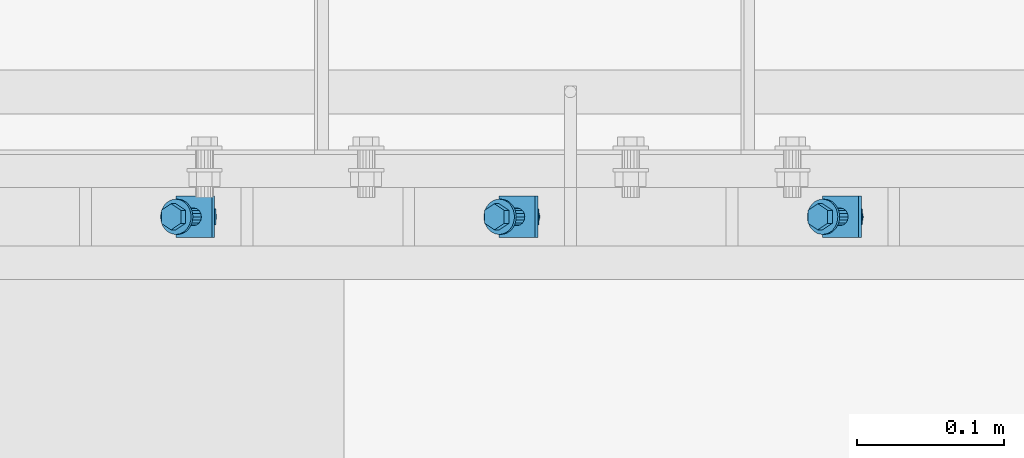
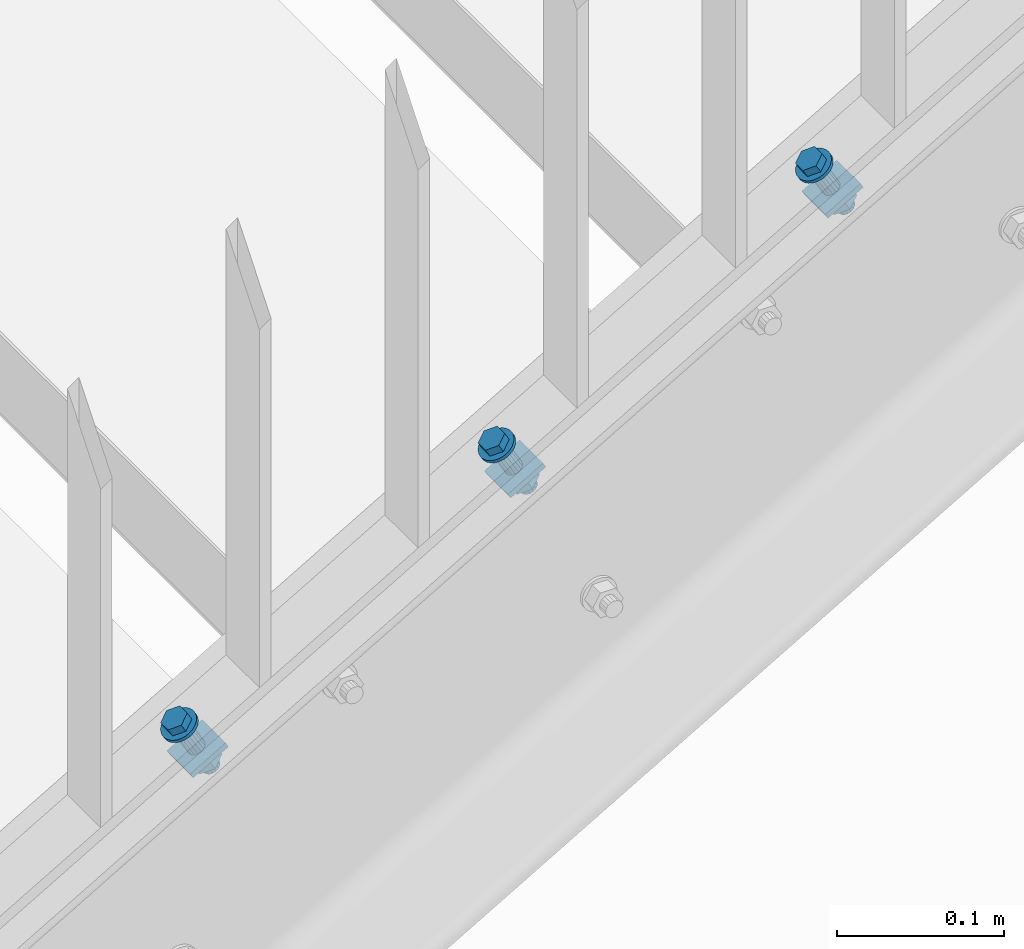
# One storey, part 49 of 145: 3 mechanical fasteners.
"""IFC2X3 building model written with IfcOpenShell, lengths in millimetres."""

from ifc_helpers import new_model, entity, si_unit, converted_unit, origin_with_axes, place, context, project, spatial, faceted_brep, element, save


model = new_model("IFC2X3")

# Units and contexts
model_context = context("Model", 3, precision=1e-09, world=origin_with_axes())
ifc_project = project(units=[si_unit("LENGTHUNIT", "METRE", prefix="MILLI"), si_unit("AREAUNIT", "SQUARE_METRE"), si_unit("VOLUMEUNIT", "CUBIC_METRE"), converted_unit("PLANEANGLEUNIT", "DEGREE", entity("IfcPlaneAngleMeasure", 0.01745329), si_unit("PLANEANGLEUNIT", "RADIAN"), dimensions=[0, 0, 0, 0, 0, 0, 0])], contexts=[model_context])

# Site, building, storey
site_placement = place(None, origin_with_axes())
site = spatial("IfcSite", under=ifc_project, at=site_placement, Name="BZ1 Grund- und Mittelschule 85716 Unterschlei?heim", CompositionType="ELEMENT")
building_placement = place(site_placement, origin_with_axes())
building = spatial("IfcBuilding", under=site, at=building_placement, Name="Struktur 1", CompositionType="ELEMENT")
storey_placement = place(building_placement, origin_with_axes())
storey = spatial("IfcBuildingStorey", under=building, at=storey_placement, Name="Default Storey", CompositionType="ELEMENT", Elevation=0.0)

# Mechanical fasteners
mechanical_fastener_1_placement = place(None, origin_with_axes())
element("IfcMechanicalFastener", 1, at=mechanical_fastener_1_placement, inside=storey, ObjectType="-", NominalDiameter=12.0, NominalLength=45.0, context=model_context, shape_type="Brep", body=[
    faceted_brep([(17139.692769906, -3162.502, 17.083019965), (17140.949497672, -3162.502, 14.921854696), (17141.148823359, -3164.843083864, 15.03776352), (17139.892095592, -3164.843083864, 17.198928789), (17141.739140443, -3167.094201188, 15.38103568), (17140.482412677, -3167.094201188, 17.542200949), (17142.697763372, -3169.168842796, 15.938479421), (17141.441035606, -3169.168842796, 18.09964469), (17143.987852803, -3170.987281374, 16.688672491), (17142.731125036, -3170.987281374, 18.84983776), (17145.559831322, -3172.479635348, 17.602785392), (17144.303103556, -3172.479635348, 19.763950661), (17147.353288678, -3173.58855439, 18.645689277), (17146.096560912, -3173.58855439, 20.806854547), (17149.299303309, -3174.271423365, 19.777305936), (17148.042575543, -3174.271423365, 21.938471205), (17151.323090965, -3174.502, 20.954147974), (17150.066363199, -3174.502, 23.115313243), (17153.346878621, -3174.271423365, 22.130990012), (17152.090150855, -3174.271423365, 24.292155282), (17155.292893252, -3173.58855439, 23.262606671), (17154.036165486, -3173.58855439, 25.42377194), (17157.086350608, -3172.479635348, 24.305510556), (17155.829622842, -3172.479635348, 26.466675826), (17158.658329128, -3170.987281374, 25.219623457), (17157.401601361, -3170.987281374, 27.380788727), (17159.948418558, -3169.168842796, 25.969816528), (17158.691690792, -3169.168842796, 28.130981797), (17160.907041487, -3167.094201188, 26.527260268), (17159.650313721, -3167.094201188, 28.688425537), (17161.497358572, -3164.843083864, 26.870532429), (17160.240630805, -3164.843083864, 29.031697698), (17161.696684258, -3162.502, 26.986441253), (17160.439956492, -3162.502, 29.147606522), (17161.497358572, -3160.160916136, 26.870532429), (17160.240630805, -3160.160916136, 29.031697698), (17160.907041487, -3157.909798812, 26.527260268), (17159.650313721, -3157.909798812, 28.688425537), (17159.948418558, -3155.835157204, 25.969816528), (17158.691690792, -3155.835157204, 28.130981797), (17158.658329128, -3154.016718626, 25.219623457), (17157.401601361, -3154.016718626, 27.380788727), (17157.086350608, -3152.524364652, 24.305510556), (17155.829622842, -3152.524364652, 26.466675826), (17155.292893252, -3151.41544561, 23.262606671), (17154.036165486, -3151.41544561, 25.42377194), (17153.346878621, -3150.732576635, 22.130990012), (17152.090150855, -3150.732576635, 24.292155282), (17151.323090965, -3150.502, 20.954147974), (17150.066363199, -3150.502, 23.115313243), (17149.299303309, -3150.732576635, 19.777305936), (17148.042575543, -3150.732576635, 21.938471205), (17147.353288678, -3151.41544561, 18.645689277), (17146.096560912, -3151.41544561, 20.806854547), (17145.559831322, -3152.524364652, 17.602785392), (17144.303103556, -3152.524364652, 19.763950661), (17143.987852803, -3154.016718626, 16.688672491), (17142.731125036, -3154.016718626, 18.84983776), (17142.697763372, -3155.835157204, 15.938479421), (17141.441035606, -3155.835157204, 18.09964469), (17141.739140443, -3157.909798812, 15.38103568), (17140.482412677, -3157.909798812, 17.542200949), (17141.148823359, -3160.160916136, 15.03776352), (17139.892095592, -3160.160916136, 17.198928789)], [[[0, 1, 2, 3]], [[3, 2, 4, 5]], [[5, 4, 6, 7]], [[7, 6, 8, 9]], [[9, 8, 10, 11]], [[11, 10, 12, 13]], [[13, 12, 14, 15]], [[15, 14, 16, 17]], [[17, 16, 18, 19]], [[19, 18, 20, 21]], [[21, 20, 22, 23]], [[23, 22, 24, 25]], [[25, 24, 26, 27]], [[27, 26, 28, 29]], [[29, 28, 30, 31]], [[31, 30, 32, 33]], [[33, 32, 34, 35]], [[35, 34, 36, 37]], [[37, 36, 38, 39]], [[39, 38, 40, 41]], [[41, 40, 42, 43]], [[43, 42, 44, 45]], [[45, 44, 46, 47]], [[47, 46, 48, 49]], [[49, 48, 50, 51]], [[51, 50, 52, 53]], [[53, 52, 54, 55]], [[55, 54, 56, 57]], [[57, 56, 58, 59]], [[59, 58, 60, 61]], [[61, 60, 62, 63]], [[63, 62, 1, 0]], [[0, 3, 5, 7, 9, 11, 13, 15, 17, 19, 21, 23, 25, 27, 29, 31, 33, 35, 37, 39, 41, 43, 45, 47, 49, 51, 53, 55, 57, 59, 61, 63]], [[1, 62, 60, 58, 56, 54, 52, 50, 48, 46, 44, 42, 40, 38, 36, 34, 32, 30, 28, 26, 24, 22, 20, 18, 16, 14, 12, 10, 8, 6, 4, 2]]]),
    faceted_brep([(17156.718114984, -3166.9445, 26.983338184), (17153.500891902, -3166.9445, 32.515921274), (17146.849140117, -3171.387, 28.647896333), (17150.066363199, -3171.387, 23.115313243), (17140.197388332, -3166.9445, 24.779871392), (17143.414611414, -3166.9445, 19.247288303), (17140.197388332, -3158.0595, 24.779871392), (17143.414611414, -3158.0595, 19.247288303), (17146.849140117, -3153.617, 28.647896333), (17150.066363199, -3153.617, 23.115313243), (17153.500891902, -3158.0595, 32.515921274), (17156.718114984, -3158.0595, 26.983338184)], [[[0, 1, 2, 3]], [[3, 2, 4, 5]], [[5, 4, 6, 7]], [[7, 6, 8, 9]], [[9, 8, 10, 11]], [[11, 10, 1, 0]], [[4, 2, 1, 10, 8, 6]], [[0, 3, 5, 7, 9, 11]]]),
    faceted_brep([(17146.136294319, -3162.502, 17.938001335), (17157.117086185, -3162.502, -0.945408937), (17157.511907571, -3164.798100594, -0.715818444), (17146.531115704, -3164.798100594, 18.167591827), (17158.63626375, -3166.744640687, -0.062000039), (17147.655471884, -3166.744640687, 18.821410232), (17160.318981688, -3168.045277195, 0.916508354), (17149.338189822, -3168.045277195, 19.799918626), (17162.303882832, -3168.502, 2.070737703), (17151.323090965, -3168.502, 20.954147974), (17164.288783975, -3168.045277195, 3.224967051), (17153.307992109, -3168.045277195, 22.108377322), (17165.971501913, -3166.744640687, 4.203475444), (17154.990710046, -3166.744640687, 23.086885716), (17167.095858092, -3164.798100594, 4.85729385), (17156.115066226, -3164.798100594, 23.740704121), (17167.490679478, -3162.502, 5.086884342), (17156.509887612, -3162.502, 23.970294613), (17167.095858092, -3160.205899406, 4.85729385), (17156.115066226, -3160.205899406, 23.740704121), (17165.971501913, -3158.259359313, 4.203475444), (17154.990710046, -3158.259359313, 23.086885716), (17164.288783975, -3156.958722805, 3.224967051), (17153.307992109, -3156.958722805, 22.108377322), (17162.303882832, -3156.502, 2.070737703), (17151.323090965, -3156.502, 20.954147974), (17160.318981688, -3156.958722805, 0.916508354), (17149.338189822, -3156.958722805, 19.799918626), (17158.63626375, -3158.259359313, -0.062000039), (17147.655471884, -3158.259359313, 18.821410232), (17157.511907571, -3160.205899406, -0.715818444), (17146.531115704, -3160.205899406, 18.167591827)], [[[0, 1, 2, 3]], [[3, 2, 4, 5]], [[5, 4, 6, 7]], [[7, 6, 8, 9]], [[9, 8, 10, 11]], [[11, 10, 12, 13]], [[13, 12, 14, 15]], [[15, 14, 16, 17]], [[17, 16, 18, 19]], [[19, 18, 20, 21]], [[21, 20, 22, 23]], [[23, 22, 24, 25]], [[25, 24, 26, 27]], [[27, 26, 28, 29]], [[29, 28, 30, 31]], [[31, 30, 1, 0]], [[0, 3, 5, 7, 9, 11, 13, 15, 17, 19, 21, 23, 25, 27, 29, 31]], [[1, 30, 28, 26, 24, 22, 20, 18, 16, 14, 12, 10, 8, 6, 4, 2]]]),
    faceted_brep([(17176.540044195, -3176.644135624, 5.721999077), (17174.529279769, -3176.644135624, 9.179863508), (17150.078485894, -3176.644135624, -5.038388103), (17152.08925032, -3176.644135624, -8.496252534), (17150.078485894, -3148.359864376, -5.038388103), (17152.08925032, -3148.359864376, -8.496252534), (17174.529279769, -3148.359864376, 9.179863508), (17176.540044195, -3148.359864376, 5.721999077)], [[[0, 1, 2, 3]], [[3, 2, 4, 5]], [[5, 4, 6, 7]], [[7, 6, 1, 0]], [[4, 2, 1, 6]], [[0, 3, 5, 7]]]),
    faceted_brep([(17177.239811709, -3167.777, -5.438916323), (17172.212900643, -3167.777, 3.205744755), (17164.314647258, -3173.052, -1.387126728), (17169.341558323, -3173.052, -10.031787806), (17156.416393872, -3167.777, -5.979998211), (17161.443304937, -3167.777, -14.624659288), (17156.416393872, -3157.227, -5.979998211), (17161.443304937, -3157.227, -14.624659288), (17164.314647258, -3151.952, -1.387126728), (17169.341558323, -3151.952, -10.031787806), (17172.212900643, -3157.227, 3.205744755), (17177.239811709, -3157.227, -5.438916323)], [[[0, 1, 2, 3]], [[3, 2, 4, 5]], [[5, 4, 6, 7]], [[7, 6, 8, 9]], [[9, 8, 10, 11]], [[11, 10, 1, 0]], [[4, 2, 1, 10, 8, 6]], [[0, 3, 5, 7, 9, 11]]]),
    faceted_brep([(17164.154761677, -3162.502, -13.047934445), (17167.500666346, -3162.502, -18.801808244), (17167.895487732, -3164.798100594, -18.572217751), (17164.549583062, -3164.798100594, -12.818343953), (17169.019843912, -3166.744640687, -17.918399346), (17165.673939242, -3166.744640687, -12.164525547), (17170.702561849, -3168.045277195, -16.939890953), (17167.356657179, -3168.045277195, -11.186017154), (17172.687462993, -3168.502, -15.785661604), (17169.341558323, -3168.502, -10.031787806), (17174.672364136, -3168.045277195, -14.631432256), (17171.326459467, -3168.045277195, -8.877558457), (17176.355082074, -3166.744640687, -13.652923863), (17173.009177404, -3166.744640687, -7.899050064), (17177.479438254, -3164.798100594, -12.999105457), (17174.133533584, -3164.798100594, -7.245231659), (17177.874259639, -3162.502, -12.769514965), (17174.528354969, -3162.502, -7.015641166), (17177.479438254, -3160.205899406, -12.999105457), (17174.133533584, -3160.205899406, -7.245231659), (17176.355082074, -3158.259359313, -13.652923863), (17173.009177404, -3158.259359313, -7.899050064), (17174.672364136, -3156.958722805, -14.631432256), (17171.326459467, -3156.958722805, -8.877558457), (17172.687462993, -3156.502, -15.785661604), (17169.341558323, -3156.502, -10.031787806), (17170.702561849, -3156.958722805, -16.939890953), (17167.356657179, -3156.958722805, -11.186017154), (17169.019843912, -3158.259359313, -17.918399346), (17165.673939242, -3158.259359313, -12.164525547), (17167.895487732, -3160.205899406, -18.572217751), (17164.549583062, -3160.205899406, -12.818343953)], [[[0, 1, 2, 3]], [[3, 2, 4, 5]], [[5, 4, 6, 7]], [[7, 6, 8, 9]], [[9, 8, 10, 11]], [[11, 10, 12, 13]], [[13, 12, 14, 15]], [[15, 14, 16, 17]], [[17, 16, 18, 19]], [[19, 18, 20, 21]], [[21, 20, 22, 23]], [[23, 22, 24, 25]], [[25, 24, 26, 27]], [[27, 26, 28, 29]], [[29, 28, 30, 31]], [[31, 30, 1, 0]], [[0, 3, 5, 7, 9, 11, 13, 15, 17, 19, 21, 23, 25, 27, 29, 31]], [[1, 30, 28, 26, 24, 22, 20, 18, 16, 14, 12, 10, 8, 6, 4, 2]]]),
])
mechanical_fastener_2_placement = place(None, origin_with_axes())
element("IfcMechanicalFastener", 2, at=mechanical_fastener_2_placement, inside=storey, ObjectType="-", NominalDiameter=12.0, NominalLength=45.0, context=model_context, shape_type="Brep", body=[
    faceted_brep([(17359.693272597, -3162.502, 145.014346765), (17360.950000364, -3162.502, 142.853181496), (17361.14932605, -3164.843083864, 142.96909032), (17359.892598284, -3164.843083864, 145.130255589), (17361.739643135, -3167.094201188, 143.31236248), (17360.482915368, -3167.094201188, 145.473527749), (17362.698266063, -3169.168842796, 143.869806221), (17361.441538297, -3169.168842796, 146.03097149), (17363.988355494, -3170.987281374, 144.619999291), (17362.731627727, -3170.987281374, 146.78116456), (17365.560334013, -3172.479635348, 145.534112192), (17364.303606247, -3172.479635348, 147.695277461), (17367.353791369, -3173.58855439, 146.577016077), (17366.097063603, -3173.58855439, 148.738181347), (17369.299806, -3174.271423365, 147.708632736), (17368.043078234, -3174.271423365, 149.869798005), (17371.323593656, -3174.502, 148.885474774), (17370.06686589, -3174.502, 151.046640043), (17373.347381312, -3174.271423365, 150.062316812), (17372.090653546, -3174.271423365, 152.223482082), (17375.293395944, -3173.58855439, 151.193933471), (17374.036668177, -3173.58855439, 153.35509874), (17377.086853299, -3172.479635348, 152.236837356), (17375.830125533, -3172.479635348, 154.398002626), (17378.658831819, -3170.987281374, 153.150950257), (17377.402104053, -3170.987281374, 155.312115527), (17379.94892125, -3169.168842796, 153.901143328), (17378.692193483, -3169.168842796, 156.062308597), (17380.907544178, -3167.094201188, 154.458587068), (17379.650816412, -3167.094201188, 156.619752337), (17381.497861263, -3164.843083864, 154.801859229), (17380.241133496, -3164.843083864, 156.963024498), (17381.697186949, -3162.502, 154.917768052), (17380.440459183, -3162.502, 157.078933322), (17381.497861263, -3160.160916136, 154.801859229), (17380.241133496, -3160.160916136, 156.963024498), (17380.907544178, -3157.909798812, 154.458587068), (17379.650816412, -3157.909798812, 156.619752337), (17379.94892125, -3155.835157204, 153.901143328), (17378.692193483, -3155.835157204, 156.062308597), (17378.658831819, -3154.016718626, 153.150950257), (17377.402104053, -3154.016718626, 155.312115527), (17377.086853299, -3152.524364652, 152.236837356), (17375.830125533, -3152.524364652, 154.398002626), (17375.293395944, -3151.41544561, 151.193933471), (17374.036668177, -3151.41544561, 153.35509874), (17373.347381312, -3150.732576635, 150.062316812), (17372.090653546, -3150.732576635, 152.223482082), (17371.323593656, -3150.502, 148.885474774), (17370.06686589, -3150.502, 151.046640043), (17369.299806, -3150.732576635, 147.708632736), (17368.043078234, -3150.732576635, 149.869798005), (17367.353791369, -3151.41544561, 146.577016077), (17366.097063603, -3151.41544561, 148.738181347), (17365.560334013, -3152.524364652, 145.534112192), (17364.303606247, -3152.524364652, 147.695277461), (17363.988355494, -3154.016718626, 144.619999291), (17362.731627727, -3154.016718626, 146.78116456), (17362.698266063, -3155.835157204, 143.869806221), (17361.441538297, -3155.835157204, 146.03097149), (17361.739643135, -3157.909798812, 143.31236248), (17360.482915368, -3157.909798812, 145.473527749), (17361.14932605, -3160.160916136, 142.96909032), (17359.892598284, -3160.160916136, 145.130255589)], [[[0, 1, 2, 3]], [[3, 2, 4, 5]], [[5, 4, 6, 7]], [[7, 6, 8, 9]], [[9, 8, 10, 11]], [[11, 10, 12, 13]], [[13, 12, 14, 15]], [[15, 14, 16, 17]], [[17, 16, 18, 19]], [[19, 18, 20, 21]], [[21, 20, 22, 23]], [[23, 22, 24, 25]], [[25, 24, 26, 27]], [[27, 26, 28, 29]], [[29, 28, 30, 31]], [[31, 30, 32, 33]], [[33, 32, 34, 35]], [[35, 34, 36, 37]], [[37, 36, 38, 39]], [[39, 38, 40, 41]], [[41, 40, 42, 43]], [[43, 42, 44, 45]], [[45, 44, 46, 47]], [[47, 46, 48, 49]], [[49, 48, 50, 51]], [[51, 50, 52, 53]], [[53, 52, 54, 55]], [[55, 54, 56, 57]], [[57, 56, 58, 59]], [[59, 58, 60, 61]], [[61, 60, 62, 63]], [[63, 62, 1, 0]], [[0, 3, 5, 7, 9, 11, 13, 15, 17, 19, 21, 23, 25, 27, 29, 31, 33, 35, 37, 39, 41, 43, 45, 47, 49, 51, 53, 55, 57, 59, 61, 63]], [[1, 62, 60, 58, 56, 54, 52, 50, 48, 46, 44, 42, 40, 38, 36, 34, 32, 30, 28, 26, 24, 22, 20, 18, 16, 14, 12, 10, 8, 6, 4, 2]]]),
    faceted_brep([(17376.718617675, -3166.9445, 154.914664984), (17373.501394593, -3166.9445, 160.447248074), (17366.849642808, -3171.387, 156.579223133), (17370.06686589, -3171.387, 151.046640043), (17360.197891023, -3166.9445, 152.711198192), (17363.415114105, -3166.9445, 147.178615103), (17360.197891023, -3158.0595, 152.711198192), (17363.415114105, -3158.0595, 147.178615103), (17366.849642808, -3153.617, 156.579223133), (17370.06686589, -3153.617, 151.046640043), (17373.501394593, -3158.0595, 160.447248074), (17376.718617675, -3158.0595, 154.914664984)], [[[0, 1, 2, 3]], [[3, 2, 4, 5]], [[5, 4, 6, 7]], [[7, 6, 8, 9]], [[9, 8, 10, 11]], [[11, 10, 1, 0]], [[4, 2, 1, 10, 8, 6]], [[0, 3, 5, 7, 9, 11]]]),
    faceted_brep([(17366.13679701, -3162.502, 145.869328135), (17377.117588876, -3162.502, 126.985917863), (17377.512410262, -3164.798100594, 127.215508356), (17366.531618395, -3164.798100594, 146.098918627), (17378.636766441, -3166.744640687, 127.869326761), (17367.655974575, -3166.744640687, 146.752737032), (17380.319484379, -3168.045277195, 128.847835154), (17369.338692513, -3168.045277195, 147.731245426), (17382.304385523, -3168.502, 130.002064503), (17371.323593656, -3168.502, 148.885474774), (17384.289286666, -3168.045277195, 131.156293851), (17373.3084948, -3168.045277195, 150.039704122), (17385.972004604, -3166.744640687, 132.134802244), (17374.991212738, -3166.744640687, 151.018212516), (17387.096360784, -3164.798100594, 132.78862065), (17376.115568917, -3164.798100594, 151.672030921), (17387.491182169, -3162.502, 133.018211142), (17376.510390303, -3162.502, 151.901621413), (17387.096360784, -3160.205899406, 132.78862065), (17376.115568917, -3160.205899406, 151.672030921), (17385.972004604, -3158.259359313, 132.134802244), (17374.991212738, -3158.259359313, 151.018212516), (17384.289286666, -3156.958722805, 131.156293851), (17373.3084948, -3156.958722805, 150.039704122), (17382.304385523, -3156.502, 130.002064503), (17371.323593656, -3156.502, 148.885474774), (17380.319484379, -3156.958722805, 128.847835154), (17369.338692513, -3156.958722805, 147.731245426), (17378.636766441, -3158.259359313, 127.869326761), (17367.655974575, -3158.259359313, 146.752737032), (17377.512410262, -3160.205899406, 127.215508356), (17366.531618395, -3160.205899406, 146.098918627)], [[[0, 1, 2, 3]], [[3, 2, 4, 5]], [[5, 4, 6, 7]], [[7, 6, 8, 9]], [[9, 8, 10, 11]], [[11, 10, 12, 13]], [[13, 12, 14, 15]], [[15, 14, 16, 17]], [[17, 16, 18, 19]], [[19, 18, 20, 21]], [[21, 20, 22, 23]], [[23, 22, 24, 25]], [[25, 24, 26, 27]], [[27, 26, 28, 29]], [[29, 28, 30, 31]], [[31, 30, 1, 0]], [[0, 3, 5, 7, 9, 11, 13, 15, 17, 19, 21, 23, 25, 27, 29, 31]], [[1, 30, 28, 26, 24, 22, 20, 18, 16, 14, 12, 10, 8, 6, 4, 2]]]),
    faceted_brep([(17396.540546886, -3176.644135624, 133.653325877), (17394.52978246, -3176.644135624, 137.111190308), (17370.078988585, -3176.644135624, 122.892938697), (17372.089753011, -3176.644135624, 119.435074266), (17370.078988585, -3148.359864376, 122.892938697), (17372.089753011, -3148.359864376, 119.435074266), (17394.52978246, -3148.359864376, 137.111190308), (17396.540546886, -3148.359864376, 133.653325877)], [[[0, 1, 2, 3]], [[3, 2, 4, 5]], [[5, 4, 6, 7]], [[7, 6, 1, 0]], [[4, 2, 1, 6]], [[0, 3, 5, 7]]]),
    faceted_brep([(17397.2403144, -3167.777, 122.492410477), (17392.213403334, -3167.777, 131.137071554), (17384.315149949, -3173.052, 126.544200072), (17389.342061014, -3173.052, 117.899538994), (17376.416896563, -3167.777, 121.951328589), (17381.443807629, -3167.777, 113.306667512), (17376.416896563, -3157.227, 121.951328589), (17381.443807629, -3157.227, 113.306667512), (17384.315149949, -3151.952, 126.544200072), (17389.342061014, -3151.952, 117.899538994), (17392.213403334, -3157.227, 131.137071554), (17397.2403144, -3157.227, 122.492410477)], [[[0, 1, 2, 3]], [[3, 2, 4, 5]], [[5, 4, 6, 7]], [[7, 6, 8, 9]], [[9, 8, 10, 11]], [[11, 10, 1, 0]], [[4, 2, 1, 10, 8, 6]], [[0, 3, 5, 7, 9, 11]]]),
    faceted_brep([(17384.155264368, -3162.502, 114.883392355), (17387.501169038, -3162.502, 109.129518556), (17387.895990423, -3164.798100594, 109.359109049), (17384.550085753, -3164.798100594, 115.112982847), (17389.020346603, -3166.744640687, 110.012927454), (17385.674441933, -3166.744640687, 115.766801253), (17390.70306454, -3168.045277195, 110.991435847), (17387.35715987, -3168.045277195, 116.745309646), (17392.687965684, -3168.502, 112.145665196), (17389.342061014, -3168.502, 117.899538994), (17394.672866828, -3168.045277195, 113.299894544), (17391.326962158, -3168.045277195, 119.053768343), (17396.355584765, -3166.744640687, 114.278402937), (17393.009680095, -3166.744640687, 120.032276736), (17397.479940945, -3164.798100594, 114.932221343), (17394.134036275, -3164.798100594, 120.686095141), (17397.87476233, -3162.502, 115.161811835), (17394.52885766, -3162.502, 120.915685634), (17397.479940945, -3160.205899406, 114.932221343), (17394.134036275, -3160.205899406, 120.686095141), (17396.355584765, -3158.259359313, 114.278402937), (17393.009680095, -3158.259359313, 120.032276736), (17394.672866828, -3156.958722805, 113.299894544), (17391.326962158, -3156.958722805, 119.053768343), (17392.687965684, -3156.502, 112.145665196), (17389.342061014, -3156.502, 117.899538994), (17390.70306454, -3156.958722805, 110.991435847), (17387.35715987, -3156.958722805, 116.745309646), (17389.020346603, -3158.259359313, 110.012927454), (17385.674441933, -3158.259359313, 115.766801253), (17387.895990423, -3160.205899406, 109.359109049), (17384.550085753, -3160.205899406, 115.112982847)], [[[0, 1, 2, 3]], [[3, 2, 4, 5]], [[5, 4, 6, 7]], [[7, 6, 8, 9]], [[9, 8, 10, 11]], [[11, 10, 12, 13]], [[13, 12, 14, 15]], [[15, 14, 16, 17]], [[17, 16, 18, 19]], [[19, 18, 20, 21]], [[21, 20, 22, 23]], [[23, 22, 24, 25]], [[25, 24, 26, 27]], [[27, 26, 28, 29]], [[29, 28, 30, 31]], [[31, 30, 1, 0]], [[0, 3, 5, 7, 9, 11, 13, 15, 17, 19, 21, 23, 25, 27, 29, 31]], [[1, 30, 28, 26, 24, 22, 20, 18, 16, 14, 12, 10, 8, 6, 4, 2]]]),
])
mechanical_fastener_3_placement = place(None, origin_with_axes())
element("IfcMechanicalFastener", 3, at=mechanical_fastener_3_placement, inside=storey, ObjectType="-", NominalDiameter=12.0, NominalLength=45.0, context=model_context, shape_type="Brep", body=[
    faceted_brep([(17579.693272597, -3162.502, 272.945381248), (17580.950000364, -3162.502, 270.784215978), (17581.14932605, -3164.843083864, 270.900124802), (17579.892598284, -3164.843083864, 273.061290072), (17581.739643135, -3167.094201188, 271.243396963), (17580.482915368, -3167.094201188, 273.404562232), (17582.698266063, -3169.168842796, 271.800840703), (17581.441538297, -3169.168842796, 273.962005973), (17583.988355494, -3170.987281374, 272.551033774), (17582.731627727, -3170.987281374, 274.712199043), (17585.560334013, -3172.479635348, 273.465146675), (17584.303606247, -3172.479635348, 275.626311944), (17587.353791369, -3173.58855439, 274.50805056), (17586.097063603, -3173.58855439, 276.669215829), (17589.299806, -3174.271423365, 275.639667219), (17588.043078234, -3174.271423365, 277.800832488), (17591.323593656, -3174.502, 276.816509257), (17590.06686589, -3174.502, 278.977674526), (17593.347381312, -3174.271423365, 277.993351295), (17592.090653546, -3174.271423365, 280.154516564), (17595.293395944, -3173.58855439, 279.124967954), (17594.036668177, -3173.58855439, 281.286133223), (17597.086853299, -3172.479635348, 280.167871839), (17595.830125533, -3172.479635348, 282.329037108), (17598.658831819, -3170.987281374, 281.08198474), (17597.402104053, -3170.987281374, 283.243150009), (17599.94892125, -3169.168842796, 281.83217781), (17598.692193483, -3169.168842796, 283.99334308), (17600.907544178, -3167.094201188, 282.389621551), (17599.650816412, -3167.094201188, 284.55078682), (17601.497861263, -3164.843083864, 282.732893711), (17600.241133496, -3164.843083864, 284.894058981), (17601.697186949, -3162.502, 282.848802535), (17600.440459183, -3162.502, 285.009967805), (17601.497861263, -3160.160916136, 282.732893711), (17600.241133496, -3160.160916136, 284.894058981), (17600.907544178, -3157.909798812, 282.389621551), (17599.650816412, -3157.909798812, 284.55078682), (17599.94892125, -3155.835157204, 281.83217781), (17598.692193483, -3155.835157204, 283.99334308), (17598.658831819, -3154.016718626, 281.08198474), (17597.402104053, -3154.016718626, 283.243150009), (17597.086853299, -3152.524364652, 280.167871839), (17595.830125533, -3152.524364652, 282.329037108), (17595.293395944, -3151.41544561, 279.124967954), (17594.036668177, -3151.41544561, 281.286133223), (17593.347381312, -3150.732576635, 277.993351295), (17592.090653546, -3150.732576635, 280.154516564), (17591.323593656, -3150.502, 276.816509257), (17590.06686589, -3150.502, 278.977674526), (17589.299806, -3150.732576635, 275.639667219), (17588.043078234, -3150.732576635, 277.800832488), (17587.353791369, -3151.41544561, 274.50805056), (17586.097063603, -3151.41544561, 276.669215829), (17585.560334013, -3152.524364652, 273.465146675), (17584.303606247, -3152.524364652, 275.626311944), (17583.988355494, -3154.016718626, 272.551033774), (17582.731627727, -3154.016718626, 274.712199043), (17582.698266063, -3155.835157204, 271.800840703), (17581.441538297, -3155.835157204, 273.962005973), (17581.739643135, -3157.909798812, 271.243396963), (17580.482915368, -3157.909798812, 273.404562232), (17581.14932605, -3160.160916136, 270.900124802), (17579.892598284, -3160.160916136, 273.061290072)], [[[0, 1, 2, 3]], [[3, 2, 4, 5]], [[5, 4, 6, 7]], [[7, 6, 8, 9]], [[9, 8, 10, 11]], [[11, 10, 12, 13]], [[13, 12, 14, 15]], [[15, 14, 16, 17]], [[17, 16, 18, 19]], [[19, 18, 20, 21]], [[21, 20, 22, 23]], [[23, 22, 24, 25]], [[25, 24, 26, 27]], [[27, 26, 28, 29]], [[29, 28, 30, 31]], [[31, 30, 32, 33]], [[33, 32, 34, 35]], [[35, 34, 36, 37]], [[37, 36, 38, 39]], [[39, 38, 40, 41]], [[41, 40, 42, 43]], [[43, 42, 44, 45]], [[45, 44, 46, 47]], [[47, 46, 48, 49]], [[49, 48, 50, 51]], [[51, 50, 52, 53]], [[53, 52, 54, 55]], [[55, 54, 56, 57]], [[57, 56, 58, 59]], [[59, 58, 60, 61]], [[61, 60, 62, 63]], [[63, 62, 1, 0]], [[0, 3, 5, 7, 9, 11, 13, 15, 17, 19, 21, 23, 25, 27, 29, 31, 33, 35, 37, 39, 41, 43, 45, 47, 49, 51, 53, 55, 57, 59, 61, 63]], [[1, 62, 60, 58, 56, 54, 52, 50, 48, 46, 44, 42, 40, 38, 36, 34, 32, 30, 28, 26, 24, 22, 20, 18, 16, 14, 12, 10, 8, 6, 4, 2]]]),
    faceted_brep([(17596.718617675, -3166.9445, 282.845699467), (17593.501394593, -3166.9445, 288.378282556), (17586.849642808, -3171.387, 284.510257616), (17590.06686589, -3171.387, 278.977674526), (17580.197891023, -3166.9445, 280.642232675), (17583.415114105, -3166.9445, 275.109649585), (17580.197891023, -3158.0595, 280.642232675), (17583.415114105, -3158.0595, 275.109649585), (17586.849642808, -3153.617, 284.510257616), (17590.06686589, -3153.617, 278.977674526), (17593.501394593, -3158.0595, 288.378282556), (17596.718617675, -3158.0595, 282.845699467)], [[[0, 1, 2, 3]], [[3, 2, 4, 5]], [[5, 4, 6, 7]], [[7, 6, 8, 9]], [[9, 8, 10, 11]], [[11, 10, 1, 0]], [[4, 2, 1, 10, 8, 6]], [[0, 3, 5, 7, 9, 11]]]),
    faceted_brep([(17586.13679701, -3162.502, 273.800362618), (17597.117588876, -3162.502, 254.916952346), (17597.512410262, -3164.798100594, 255.146542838), (17586.531618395, -3164.798100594, 274.02995311), (17598.636766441, -3166.744640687, 255.800361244), (17587.655974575, -3166.744640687, 274.683771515), (17600.319484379, -3168.045277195, 256.778869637), (17589.338692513, -3168.045277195, 275.662279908), (17602.304385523, -3168.502, 257.933098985), (17591.323593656, -3168.502, 276.816509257), (17604.289286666, -3168.045277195, 259.087328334), (17593.3084948, -3168.045277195, 277.970738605), (17605.972004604, -3166.744640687, 260.065836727), (17594.991212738, -3166.744640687, 278.949246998), (17607.096360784, -3164.798100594, 260.719655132), (17596.115568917, -3164.798100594, 279.603065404), (17607.491182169, -3162.502, 260.949245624), (17596.510390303, -3162.502, 279.832655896), (17607.096360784, -3160.205899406, 260.719655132), (17596.115568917, -3160.205899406, 279.603065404), (17605.972004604, -3158.259359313, 260.065836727), (17594.991212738, -3158.259359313, 278.949246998), (17604.289286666, -3156.958722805, 259.087328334), (17593.3084948, -3156.958722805, 277.970738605), (17602.304385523, -3156.502, 257.933098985), (17591.323593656, -3156.502, 276.816509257), (17600.319484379, -3156.958722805, 256.778869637), (17589.338692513, -3156.958722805, 275.662279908), (17598.636766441, -3158.259359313, 255.800361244), (17587.655974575, -3158.259359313, 274.683771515), (17597.512410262, -3160.205899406, 255.146542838), (17586.531618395, -3160.205899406, 274.02995311)], [[[0, 1, 2, 3]], [[3, 2, 4, 5]], [[5, 4, 6, 7]], [[7, 6, 8, 9]], [[9, 8, 10, 11]], [[11, 10, 12, 13]], [[13, 12, 14, 15]], [[15, 14, 16, 17]], [[17, 16, 18, 19]], [[19, 18, 20, 21]], [[21, 20, 22, 23]], [[23, 22, 24, 25]], [[25, 24, 26, 27]], [[27, 26, 28, 29]], [[29, 28, 30, 31]], [[31, 30, 1, 0]], [[0, 3, 5, 7, 9, 11, 13, 15, 17, 19, 21, 23, 25, 27, 29, 31]], [[1, 30, 28, 26, 24, 22, 20, 18, 16, 14, 12, 10, 8, 6, 4, 2]]]),
    faceted_brep([(17616.540546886, -3176.644135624, 261.58436036), (17614.52978246, -3176.644135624, 265.042224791), (17590.078988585, -3176.644135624, 250.82397318), (17592.089753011, -3176.644135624, 247.366108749), (17590.078988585, -3148.359864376, 250.82397318), (17592.089753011, -3148.359864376, 247.366108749), (17614.52978246, -3148.359864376, 265.042224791), (17616.540546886, -3148.359864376, 261.58436036)], [[[0, 1, 2, 3]], [[3, 2, 4, 5]], [[5, 4, 6, 7]], [[7, 6, 1, 0]], [[4, 2, 1, 6]], [[0, 3, 5, 7]]]),
    faceted_brep([(17617.2403144, -3167.777, 250.42344496), (17612.213403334, -3167.777, 259.068106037), (17604.315149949, -3173.052, 254.475234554), (17609.342061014, -3173.052, 245.830573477), (17596.416896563, -3167.777, 249.882363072), (17601.443807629, -3167.777, 241.237701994), (17596.416896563, -3157.227, 249.882363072), (17601.443807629, -3157.227, 241.237701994), (17604.315149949, -3151.952, 254.475234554), (17609.342061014, -3151.952, 245.830573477), (17612.213403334, -3157.227, 259.068106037), (17617.2403144, -3157.227, 250.42344496)], [[[0, 1, 2, 3]], [[3, 2, 4, 5]], [[5, 4, 6, 7]], [[7, 6, 8, 9]], [[9, 8, 10, 11]], [[11, 10, 1, 0]], [[4, 2, 1, 10, 8, 6]], [[0, 3, 5, 7, 9, 11]]]),
    faceted_brep([(17604.155264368, -3162.502, 242.814426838), (17607.501169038, -3162.502, 237.060553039), (17607.895990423, -3164.798100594, 237.290143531), (17604.550085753, -3164.798100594, 243.04401733), (17609.020346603, -3166.744640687, 237.943961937), (17605.674441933, -3166.744640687, 243.697835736), (17610.70306454, -3168.045277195, 238.92247033), (17607.35715987, -3168.045277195, 244.676344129), (17612.687965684, -3168.502, 240.076699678), (17609.342061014, -3168.502, 245.830573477), (17614.672866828, -3168.045277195, 241.230929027), (17611.326962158, -3168.045277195, 246.984802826), (17616.355584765, -3166.744640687, 242.20943742), (17613.009680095, -3166.744640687, 247.963311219), (17617.479940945, -3164.798100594, 242.863255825), (17614.134036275, -3164.798100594, 248.617129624), (17617.87476233, -3162.502, 243.092846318), (17614.52885766, -3162.502, 248.846720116), (17617.479940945, -3160.205899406, 242.863255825), (17614.134036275, -3160.205899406, 248.617129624), (17616.355584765, -3158.259359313, 242.20943742), (17613.009680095, -3158.259359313, 247.963311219), (17614.672866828, -3156.958722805, 241.230929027), (17611.326962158, -3156.958722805, 246.984802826), (17612.687965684, -3156.502, 240.076699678), (17609.342061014, -3156.502, 245.830573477), (17610.70306454, -3156.958722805, 238.92247033), (17607.35715987, -3156.958722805, 244.676344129), (17609.020346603, -3158.259359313, 237.943961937), (17605.674441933, -3158.259359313, 243.697835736), (17607.895990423, -3160.205899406, 237.290143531), (17604.550085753, -3160.205899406, 243.04401733)], [[[0, 1, 2, 3]], [[3, 2, 4, 5]], [[5, 4, 6, 7]], [[7, 6, 8, 9]], [[9, 8, 10, 11]], [[11, 10, 12, 13]], [[13, 12, 14, 15]], [[15, 14, 16, 17]], [[17, 16, 18, 19]], [[19, 18, 20, 21]], [[21, 20, 22, 23]], [[23, 22, 24, 25]], [[25, 24, 26, 27]], [[27, 26, 28, 29]], [[29, 28, 30, 31]], [[31, 30, 1, 0]], [[0, 3, 5, 7, 9, 11, 13, 15, 17, 19, 21, 23, 25, 27, 29, 31]], [[1, 30, 28, 26, 24, 22, 20, 18, 16, 14, 12, 10, 8, 6, 4, 2]]]),
])

save(model, "model.ifc")
